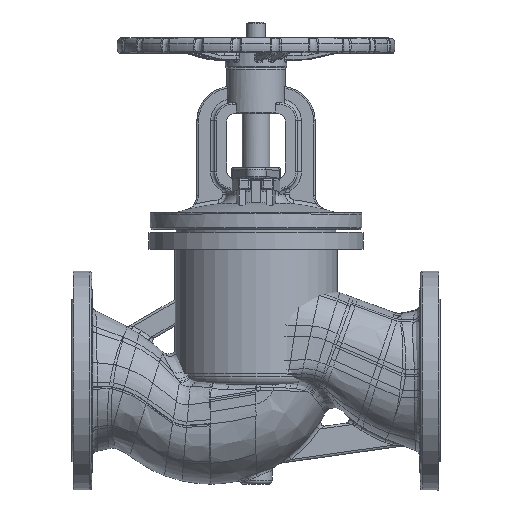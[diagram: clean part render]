
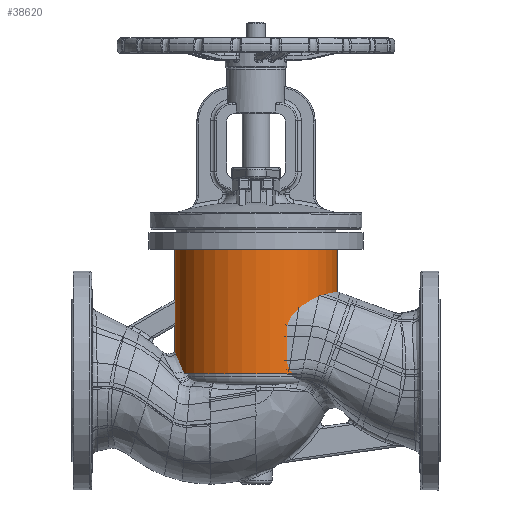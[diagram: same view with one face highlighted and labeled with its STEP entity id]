
A CAD part, top view. The second image highlights one B-rep face of the part: STEP entity #38620.
In plain terms, the highlighted cylindrical face has radius 105.879 mm (diameter 211.759 mm), a full revolution.
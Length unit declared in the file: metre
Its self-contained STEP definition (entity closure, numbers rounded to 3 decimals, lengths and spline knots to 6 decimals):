
#2306=LINE('',#115239,#3568);
#3568=VECTOR('',#45850,0.105879);
#4446=CYLINDRICAL_SURFACE('',#41161,0.105879);
#5345=CIRCLE('',#41162,0.105879);
#5346=CIRCLE('',#41163,0.105879);
#7852=FACE_OUTER_BOUND('',#10482,.T.);
#10482=EDGE_LOOP('',(#30861,#30862,#30863,#30864));
#16426=VERTEX_POINT('',#115236);
#16427=VERTEX_POINT('',#115238);
#21417=EDGE_CURVE('',#16426,#16426,#5345,.T.);
#21418=EDGE_CURVE('',#16426,#16427,#2306,.T.);
#21419=EDGE_CURVE('',#16427,#16427,#5346,.T.);
#30861=ORIENTED_EDGE('',*,*,#21417,.T.);
#30862=ORIENTED_EDGE('',*,*,#21418,.T.);
#30863=ORIENTED_EDGE('',*,*,#21419,.T.);
#30864=ORIENTED_EDGE('',*,*,#21418,.F.);
#38620=ADVANCED_FACE('',(#7852),#4446,.T.);
#41161=AXIS2_PLACEMENT_3D('',#115235,#45846,#45847);
#41162=AXIS2_PLACEMENT_3D('',#115237,#45848,#45849);
#41163=AXIS2_PLACEMENT_3D('',#115240,#45851,#45852);
#45846=DIRECTION('center_axis',(0.,1.,0.));
#45847=DIRECTION('ref_axis',(0.,0.,1.));
#45848=DIRECTION('center_axis',(0.,-1.,0.));
#45849=DIRECTION('ref_axis',(0.,0.,-1.));
#45850=DIRECTION('',(0.,-1.,0.));
#45851=DIRECTION('center_axis',(0.,1.,0.));
#45852=DIRECTION('ref_axis',(0.,0.,-1.));
#115235=CARTESIAN_POINT('Origin',(0.,-0.290493,0.));
#115236=CARTESIAN_POINT('',(0.,0.171,-0.105879));
#115237=CARTESIAN_POINT('Origin',(0.,0.171,0.));
#115238=CARTESIAN_POINT('',(0.,0.008979,-0.105879));
#115239=CARTESIAN_POINT('',(0.,-0.290493,-0.105879));
#115240=CARTESIAN_POINT('Origin',(0.,0.008979,0.));
